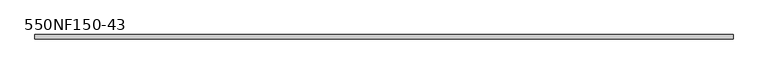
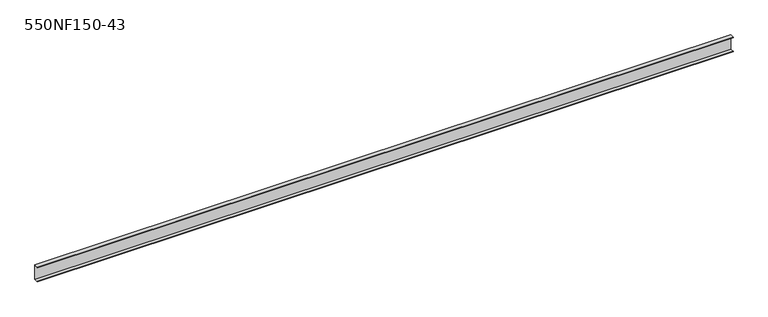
"""IFC4 building model written with IfcOpenShell, lengths in millimetres: beam geometry, BIMSF-SSMA-S : 550NF150-43."""

from ifc_helpers import new_model, si_unit, frame, origin, place, context, project, spatial, polyline, outline, extrude, source, transform, mapped, element, save


def beam_550nf150_43_358bc03b(model_context):
    return source(origin(), model_context, "Body", "SweptSolid", [
        extrude(outline(polyline([(19.05, 69.85), (19.05, -69.85), (-19.05, -69.85), (-19.05, -65.0748), (-17.9003158, -65.0748), (-17.9003158, -68.7003158), (17.9003158, -68.7003158), (17.9003158, 68.7003158), (-17.9003158, 68.7003158), (-17.9003158, 65.0748), (-19.05, 65.0748), (-19.05, 69.85), (19.05, 69.85)])), frame((-3149.6, 0.0, 0.0), z_axis=(1.0, 0.0, 0.0), x_axis=(0.0, 1.0, 0.0)), (0.0, 0.0, 1.0), 6299.2),
    ])


if __name__ == "__main__":
    model = new_model("IFC4")
    model_context = context("Model", 3, world=origin())
    ifc_project = project(units=[si_unit("LENGTHUNIT", "METRE", prefix="MILLI")], contexts=[model_context])
    site = spatial("IfcSite", under=ifc_project)
    building = spatial("IfcBuilding", under=site)
    placement = place(None, origin())
    beam_550nf150_43_shape = beam_550nf150_43_358bc03b(model_context)
    element("IfcBeam", 1, ObjectType="BIMSF-SSMA-S : 550NF150-43", at=placement, inside=building, context=model_context, shape_type="MappedRepresentation", body=[
        mapped(beam_550nf150_43_shape, transform((0.0, 0.0, 0.0), x_axis=(1.0, 0.0, 0.0), y_axis=(0.0, 1.0, 0.0), z_axis=(0.0, 0.0, 1.0))),
    ])
    save(model, "model.ifc")
